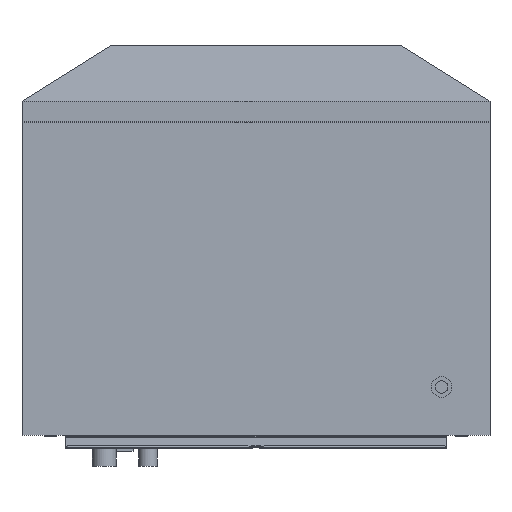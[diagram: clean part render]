
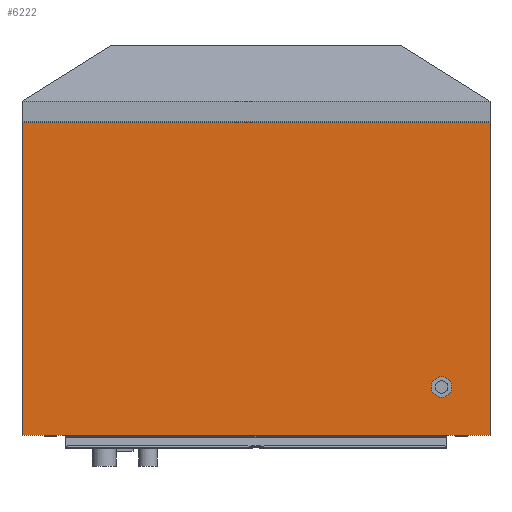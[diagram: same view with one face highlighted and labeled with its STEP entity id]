
A CAD part, front view. The second image highlights one B-rep face of the part: STEP entity #6222.
In plain terms, the highlighted planar face has unit normal (0, -1, 0).
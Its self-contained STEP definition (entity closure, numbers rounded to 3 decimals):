
#1253=CARTESIAN_POINT('',(180.5,0.,47.));
#1254=DIRECTION('',(0.,-1.,0.));
#1255=DIRECTION('',(1.,0.,0.));
#1256=AXIS2_PLACEMENT_3D('',#1253,#1254,#1255);
#1261=CARTESIAN_POINT('',(180.5,0.,47.));
#1262=DIRECTION('',(0.,-1.,0.));
#1263=DIRECTION('',(-1.,0.,0.));
#1264=AXIS2_PLACEMENT_3D('',#1261,#1262,#1263);
#1269=DIRECTION('',(-1.,0.,0.));
#1270=VECTOR('',#1269,455.);
#1271=CARTESIAN_POINT('',(227.5,0.,304.5));
#1272=LINE('',#1271,#1270);
#1276=DIRECTION('',(0.,0.,1.));
#1277=VECTOR('',#1276,304.5);
#1278=CARTESIAN_POINT('',(227.5,0.,0.));
#1279=LINE('',#1278,#1277);
#1283=DIRECTION('',(1.,0.,0.));
#1284=VECTOR('',#1283,455.);
#1285=CARTESIAN_POINT('',(-227.5,0.,0.));
#1286=LINE('',#1285,#1284);
#1290=DIRECTION('',(0.,0.,-1.));
#1291=VECTOR('',#1290,304.5);
#1292=CARTESIAN_POINT('',(-227.5,0.,304.5));
#1293=LINE('',#1292,#1291);
#4799=CARTESIAN_POINT('',(-227.5,0.,0.));
#4800=CARTESIAN_POINT('',(227.5,0.,0.));
#4801=VERTEX_POINT('',#4799);
#4802=VERTEX_POINT('',#4800);
#5125=CARTESIAN_POINT('',(190.5,0.,47.));
#5126=CARTESIAN_POINT('',(170.5,0.,47.));
#5127=VERTEX_POINT('',#5125);
#5128=VERTEX_POINT('',#5126);
#5645=CARTESIAN_POINT('',(227.5,0.,304.5));
#5646=CARTESIAN_POINT('',(-227.5,0.,304.5));
#5647=VERTEX_POINT('',#5645);
#5648=VERTEX_POINT('',#5646);
#6202=CARTESIAN_POINT('',(0.,0.,0.));
#6203=DIRECTION('',(0.,-1.,0.));
#6204=DIRECTION('',(0.,0.,1.));
#6205=AXIS2_PLACEMENT_3D('',#6202,#6203,#6204);
#6206=PLANE('',#6205);
#6208=ORIENTED_EDGE('',*,*,#6207,.F.);
#6210=ORIENTED_EDGE('',*,*,#6209,.F.);
#6211=ORIENTED_EDGE('',*,*,#5674,.F.);
#6213=ORIENTED_EDGE('',*,*,#6212,.F.);
#6214=EDGE_LOOP('',(#6208,#6210,#6211,#6213));
#6215=FACE_OUTER_BOUND('',#6214,.F.);
#6217=ORIENTED_EDGE('',*,*,#6216,.T.);
#6219=ORIENTED_EDGE('',*,*,#6218,.T.);
#6220=EDGE_LOOP('',(#6217,#6219));
#6221=FACE_BOUND('',#6220,.F.);
#6222=ADVANCED_FACE('',(#6215,#6221),#6206,.T.);
#1257=CIRCLE('',#1256,10.);
#1265=CIRCLE('',#1264,10.);
#5674=EDGE_CURVE('',#4801,#4802,#1286,.T.);
#6207=EDGE_CURVE('',#5647,#5648,#1272,.T.);
#6209=EDGE_CURVE('',#4802,#5647,#1279,.T.);
#6212=EDGE_CURVE('',#5648,#4801,#1293,.T.);
#6216=EDGE_CURVE('',#5127,#5128,#1257,.T.);
#6218=EDGE_CURVE('',#5128,#5127,#1265,.T.);
